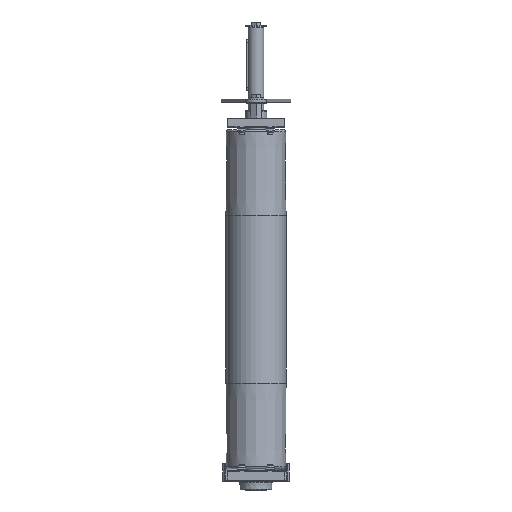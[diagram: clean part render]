
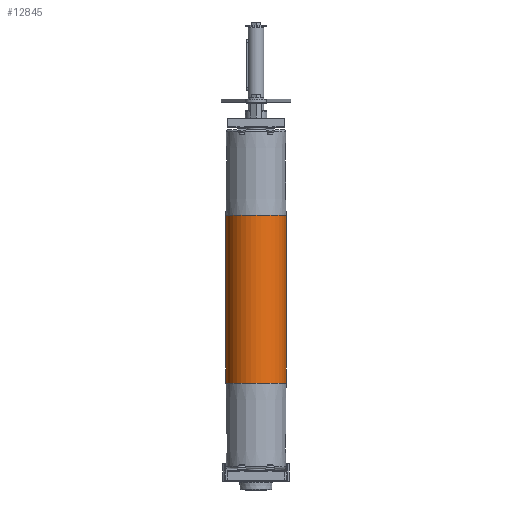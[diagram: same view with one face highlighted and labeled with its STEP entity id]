
A CAD part, left-side view. The second image highlights one B-rep face of the part: STEP entity #12845.
In plain terms, the highlighted cylindrical face has radius 47.5 mm (diameter 95 mm), a full revolution.
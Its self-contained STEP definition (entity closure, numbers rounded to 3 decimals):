
#4008 = CARTESIAN_POINT ( 'NONE',  ( -132., 0., -47.5 ) ) ;
#4009 = CARTESIAN_POINT ( 'NONE',  ( 132., 0., -47.5 ) ) ;
#4725 = EDGE_LOOP ( 'NONE', ( #17640 ) ) ;
#4762 = EDGE_LOOP ( 'NONE', ( #17670 ) ) ;
#10042 = CARTESIAN_POINT ( 'NONE',  ( 264., 0., 0. ) ) ;
#10056 = DIRECTION ( 'NONE',  ( 0., 0., 1. ) ) ;
#10066 = DIRECTION ( 'NONE',  ( -1., 0., 0. ) ) ;
#10678 = AXIS2_PLACEMENT_3D ( 'NONE', #10042, #10066, #10056 ) ;
#10906 = AXIS2_PLACEMENT_3D ( 'NONE', #19895, #19897, #19899 ) ;
#10907 = AXIS2_PLACEMENT_3D ( 'NONE', #19903, #19905, #19907 ) ;
#12845 = ADVANCED_FACE ( 'NONE', ( #22453, #22464 ), #22466, .T. ) ;
#13388 = VERTEX_POINT ( 'NONE', #4008 ) ;
#13389 = VERTEX_POINT ( 'NONE', #4009 ) ;
#14075 = EDGE_CURVE ( 'NONE', #13388, #13388, #22792, .T. ) ;
#14076 = EDGE_CURVE ( 'NONE', #13389, #13389, #22800, .T. ) ;
#17640 = ORIENTED_EDGE ( 'NONE', *, *, #14075, .T. ) ;
#17670 = ORIENTED_EDGE ( 'NONE', *, *, #14076, .F. ) ;
#19895 = CARTESIAN_POINT ( 'NONE',  ( -132., 0., 0. ) ) ;
#19897 = DIRECTION ( 'NONE',  ( 1., 0., 0. ) ) ;
#19899 = DIRECTION ( 'NONE',  ( 0., 0., -1. ) ) ;
#19903 = CARTESIAN_POINT ( 'NONE',  ( 132., 0., 0. ) ) ;
#19905 = DIRECTION ( 'NONE',  ( 1., 0., 0. ) ) ;
#19907 = DIRECTION ( 'NONE',  ( 0., 0., -1. ) ) ;
#22453 = FACE_OUTER_BOUND ( 'NONE', #4762, .T. ) ;
#22464 = FACE_OUTER_BOUND ( 'NONE', #4725, .T. ) ;
#22466 = CYLINDRICAL_SURFACE ( 'NONE', #10678, 47.5 ) ;
#22792 = CIRCLE ( 'NONE', #10906, 47.5 ) ;
#22800 = CIRCLE ( 'NONE', #10907, 47.5 ) ;
